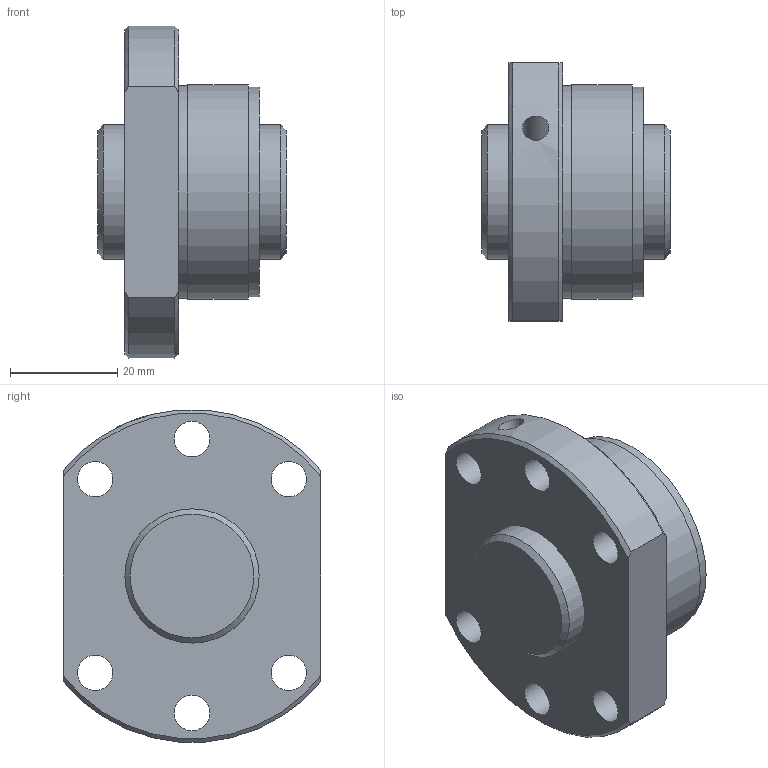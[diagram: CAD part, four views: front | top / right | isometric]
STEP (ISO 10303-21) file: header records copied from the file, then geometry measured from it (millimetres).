
FILE_DESCRIPTION(/* description */ ('STEP AP203'),/* implementation_level */ '2;1');
FILE_NAME(/* name */ 'SDA2505V-3G0+35LC0(0G000)',/* time_stamp */ '2024-05-28T11:30:34+02:00',/* author */ ('License CC BY-ND 4.0'),/* organization */ ('CADENAS'),/* preprocessor_version */ 'ST-DEVELOPER v19.3',/* originating_system */ 'PARTsolutions',/* authorisation */ ' ');
FILE_SCHEMA (('CONFIG_CONTROL_DESIGN'));
Length unit declared in the file: millimetre
Products named in the file (3): SDA2505V-3G0+35LC0(0G000); 000SDA2505V-30Shaft; SDA-V serieSDA2505V-3nut
Assembly tree (2 placements, depth 2):
  SDA2505V-3G0+35LC0(0G000)
    000SDA2505V-30Shaft
    SDA-V serieSDA2505V-3nut
Bounding box: 35 x 48 x 61.8 mm (x, y, z)
Volume: 47535.2 mm3; surface area: 14695.4 mm2
Topology: 2 solids, 2 shells, 31 faces, 74 edges, 50 vertices
Faces by surface type: cylinder 15, plane 9, cone 7
Full cylindrical faces by diameter (mm): 3.9 x1, 4.917 x1, 6.6 x6, 25 x2, 39 x1, 39.6 x1, 40 x1
Entity records: 915 total; most frequent: CARTESIAN_POINT 174, DIRECTION 144, ORIENTED_EDGE 104, AXIS2_PLACEMENT_3D 68, EDGE_LOOP 66, FACE_BOUND 66, EDGE_CURVE 52, VERTEX_POINT 44
